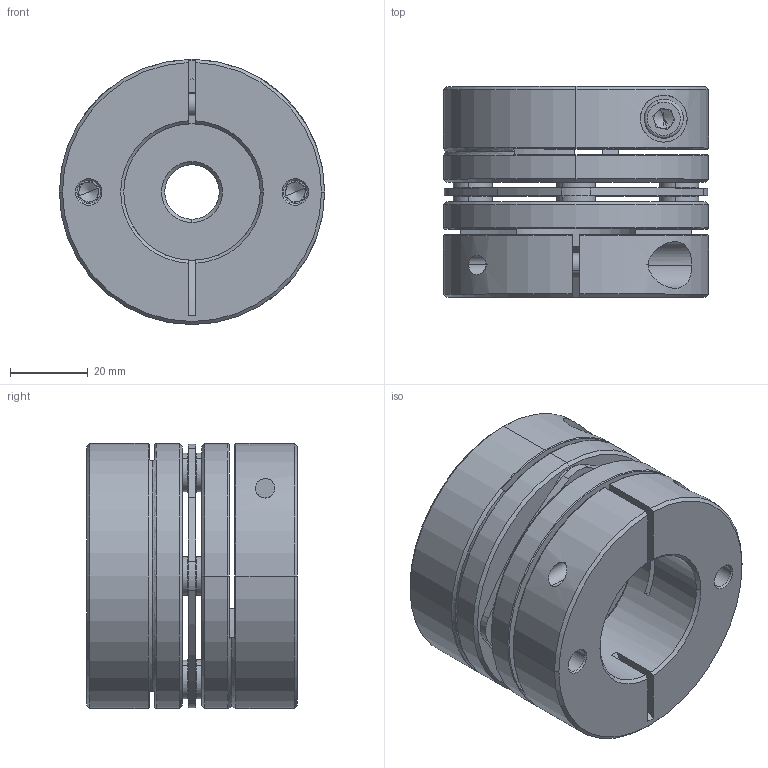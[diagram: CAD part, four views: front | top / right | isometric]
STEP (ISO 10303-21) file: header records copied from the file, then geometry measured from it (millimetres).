
FILE_DESCRIPTION (( 'STEP AP203' ), '1' );
FILE_NAME ('LD1-D68-14-35.STEP', '2021-10-26T07:47:44', ( '' ), ( '' ), 'SwSTEP 2.0', 'SolidWorks 2018', '' );
FILE_SCHEMA (( 'CONFIG_CONTROL_DESIGN' ));
Length unit declared in the file: millimetre
Products named in the file (2): LD1-D68-14-35; 錨璃101^LD1-D68
Assembly tree (1 placements, depth 2):
  LD1-D68-14-35
    錨璃101^LD1-D68
Bounding box: 68 x 54 x 68 mm (x, y, z)
Volume: 139809.3 mm3; surface area: 45638.7 mm2
Topology: 1 solids, 15 shells, 443 faces, 1063 edges, 652 vertices
Faces by surface type: cylinder 161, plane 138, cone 122, torus 22
Entity records: 13477 total; most frequent: CARTESIAN_POINT 2615, DIRECTION 2435, ORIENTED_EDGE 2094, EDGE_CURVE 1047, AXIS2_PLACEMENT_3D 988, VERTEX_POINT 652, CIRCLE 541, EDGE_LOOP 523
